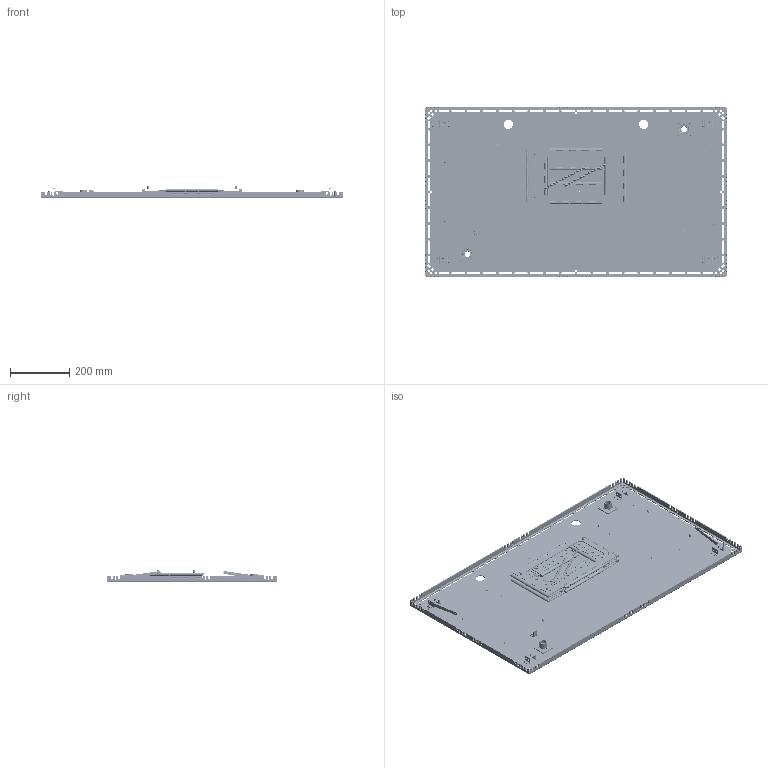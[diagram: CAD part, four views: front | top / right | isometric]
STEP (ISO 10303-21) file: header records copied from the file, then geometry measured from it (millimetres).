
FILE_DESCRIPTION (( 'STEP AP214' ), '1' );
FILE_NAME ('AD 46 Mount.STEP', '2012-09-11T17:32:56', ( 'landesk' ), ( 'Microsoft' ), 'SwSTEP 2.0', 'SolidWorks 2012', '' );
FILE_SCHEMA (( 'AUTOMOTIVE_DESIGN' ));
Length unit declared in the file: millimetre
Products named in the file (34): 209-0050_M4 NYLOC; 209-0049_93825A120; B18.2.2.4M - Hex flange nut, M6 x 1, Serrated --N; 572-2949; PEM S-M4-2 ZI--N; 437-2203; RIVET - 125 C''SINK; 572-3322; RING, RET, EXT, MCMASTER 98430A156_98430A156; BUSHING, FLANGED, .75id, 1od, 1.125lg, 1.44fod, .125ft; 572-3674; 572-3443; 572-3442; PEM FH-M4-25 ZI--N_PEM FH-M4-25 ZI--N; PEM TPS-4mm-12; PEM TPS-4mm-8_PreviewCfg; PEM FH-M4-10 ZI--N; PEM FH-M6-10 ZI--N_PEM FH-M6-10 ZI--N; 437-2185_closed.; PEM FH-M6-12 ZI--N_PEM FH-M6-12 ZI--N; STD HINGE PIN .25 MATL_8"; 572-3326; 572-3325; AD 46 Mount; 536-0090_Extended 6.8"; 090-1463; E-RING 1-8 SHAFT_99620A525; 572-3332; PEM SKC-6060-6; PEM FH-M3-8 ZI--N
Assembly tree (103 placements, depth 4):
  AD 46 Mount
    437-2185_closed.
      572-3325  x2
      572-3326  x8
      STD HINGE PIN .25 MATL_8"  x12
      PEM FH-M6-12 ZI--N_PEM FH-M6-12 ZI--N  x4
    437-2203
      572-3442
        572-3442
        PEM FH-M6-10 ZI--N_PEM FH-M6-10 ZI--N  x4
        PEM FH-M4-10 ZI--N  x6
        PEM TPS-4mm-8_PreviewCfg  x4
        PEM TPS-4mm-12  x8
        PEM FH-M4-25 ZI--N_PEM FH-M4-25 ZI--N  x2
      572-3443  x2
      572-3674  x2
      572-3322  x2
        572-3322
        BUSHING, FLANGED, .75id, 1od, 1.125lg, 1.44fod, .125ft
        RING, RET, EXT, MCMASTER 98430A156_98430A156
      RIVET - 125 C''SINK  x20
    572-2949
      572-2949
      PEM S-M4-2 ZI--N
    B18.2.2.4M - Hex flange nut, M6 x 1, Serrated --N  x4
    209-0049_93825A120
    209-0050_M4 NYLOC  x2
    536-0090_Extended 6.8"  x2
    572-3332  x2
      572-3332
      PEM FH-M3-8 ZI--N
      PEM SKC-6060-6
    E-RING 1-8 SHAFT_99620A525  x2
    090-1463
Bounding box: 1019.68 x 574.27 x 42.4 mm (x, y, z)
Volume: 2481313.1 mm3; surface area: 1744350.2 mm2
Topology: 101 solids, 101 shells, 6481 faces, 17568 edges, 11465 vertices
Faces by surface type: plane 3157, cylinder 2233, cone 649, bspline 362, torus 80
Entity records: 157271 total; most frequent: CARTESIAN_POINT 67190, ORIENTED_EDGE 17656, DIRECTION 15621, EDGE_CURVE 8828, VERTEX_POINT 5783, VECTOR 5485, LINE 5485, AXIS2_PLACEMENT_3D 5068
